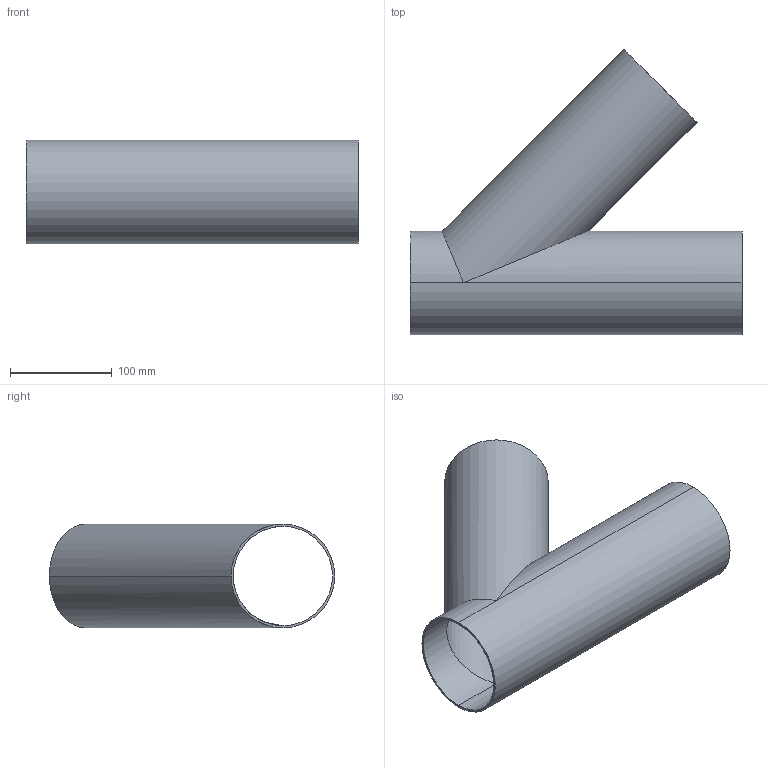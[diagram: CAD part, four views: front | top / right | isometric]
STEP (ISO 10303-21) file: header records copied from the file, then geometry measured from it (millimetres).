
FILE_DESCRIPTION (( 'STEP AP214' ), '1' );
FILE_NAME ('TE28WA6L4.0-...STEP', '2016-05-24T12:45:17', ( 'eran' ), ( '' ), 'SwSTEP 2.0', 'SolidWorks 2016', '' );
FILE_SCHEMA (( 'AUTOMOTIVE_DESIGN' ));
Length unit declared in the file: millimetre
Products named in the file (1): TE28WA6L4.0-..
Bounding box: 325.5 x 279.83 x 101.6 mm (x, y, z)
Volume: 335692.5 mm3; surface area: 320153.6 mm2
Topology: 1 solids, 1 shells, 13 faces, 32 edges, 20 vertices
Faces by surface type: cylinder 10, plane 3
Entity records: 428 total; most frequent: CARTESIAN_POINT 90, ORIENTED_EDGE 64, DIRECTION 64, EDGE_CURVE 32, AXIS2_PLACEMENT_3D 26, VERTEX_POINT 20, EDGE_LOOP 16, FACE_OUTER_BOUND 13
